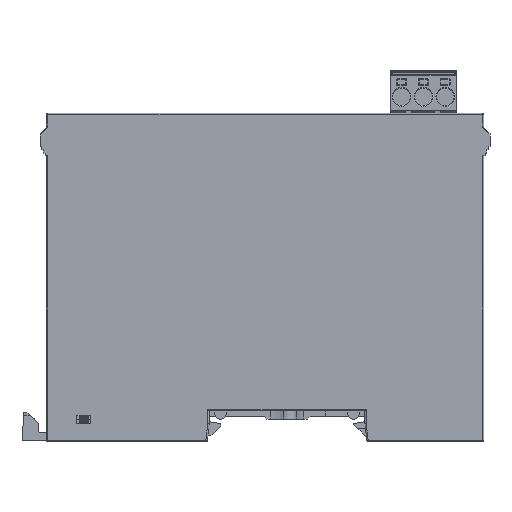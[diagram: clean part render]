
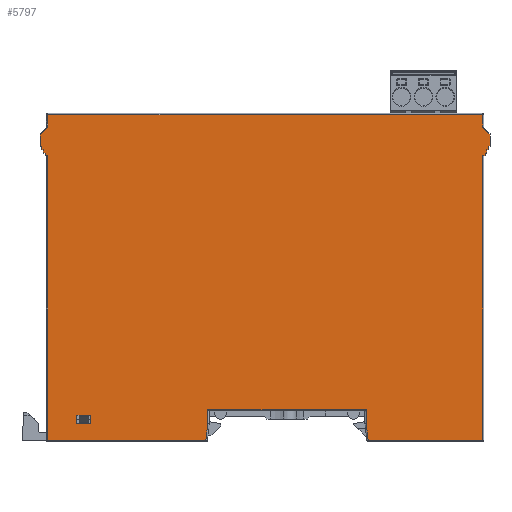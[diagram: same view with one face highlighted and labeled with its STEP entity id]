
A CAD part, left-side view. The second image highlights one B-rep face of the part: STEP entity #5797.
In plain terms, the highlighted planar face has unit normal (-1, 0, 0).
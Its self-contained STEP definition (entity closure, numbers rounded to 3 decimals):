
#199=DIRECTION('',(0.,0.,1.));
#200=VECTOR('',#199,2.);
#201=CARTESIAN_POINT('',(-12.5,39.86,4.));
#202=LINE('',#201,#200);
#203=DIRECTION('',(0.,1.,0.));
#204=VECTOR('',#203,3.2);
#205=CARTESIAN_POINT('',(-12.5,39.86,6.));
#206=LINE('',#205,#204);
#207=DIRECTION('',(0.,0.,-1.));
#208=VECTOR('',#207,2.);
#209=CARTESIAN_POINT('',(-12.5,43.06,6.));
#210=LINE('',#209,#208);
#211=DIRECTION('',(0.,-1.,0.));
#212=VECTOR('',#211,3.2);
#213=CARTESIAN_POINT('',(-12.5,43.06,4.));
#214=LINE('',#213,#212);
#215=DIRECTION('',(0.,0.,1.));
#216=VECTOR('',#215,2.821);
#217=CARTESIAN_POINT('',(-12.5,49.7,71.879));
#218=LINE('',#217,#216);
#219=DIRECTION('',(0.,-1.,0.));
#220=VECTOR('',#219,99.4);
#221=CARTESIAN_POINT('',(-12.5,49.7,74.7));
#222=LINE('',#221,#220);
#223=DIRECTION('',(0.,0.,-1.));
#224=VECTOR('',#223,2.821);
#225=CARTESIAN_POINT('',(-12.5,-49.7,74.7));
#226=LINE('',#225,#224);
#227=DIRECTION('',(0.,0.,1.));
#228=VECTOR('',#227,2.8);
#229=CARTESIAN_POINT('',(-12.5,-51.4,67.5));
#230=LINE('',#229,#228);
#231=DIRECTION('',(0.,-1.,0.));
#232=VECTOR('',#231,0.3);
#233=CARTESIAN_POINT('',(-12.5,-51.1,67.5));
#234=LINE('',#233,#232);
#235=DIRECTION('',(0.,0.,1.));
#236=VECTOR('',#235,0.8);
#237=CARTESIAN_POINT('',(-12.5,-51.1,66.7));
#238=LINE('',#237,#236);
#239=DIRECTION('',(0.,-1.,0.));
#240=VECTOR('',#239,0.4);
#241=CARTESIAN_POINT('',(-12.5,-50.7,66.7));
#242=LINE('',#241,#240);
#243=DIRECTION('',(0.,0.,1.));
#244=VECTOR('',#243,0.8);
#245=CARTESIAN_POINT('',(-12.5,-50.7,65.9));
#246=LINE('',#245,#244);
#247=DIRECTION('',(0.,-1.,0.));
#248=VECTOR('',#247,0.4);
#249=CARTESIAN_POINT('',(-12.5,-50.3,65.9));
#250=LINE('',#249,#248);
#251=DIRECTION('',(0.,0.,1.));
#252=VECTOR('',#251,0.6);
#253=CARTESIAN_POINT('',(-12.5,-50.3,65.3));
#254=LINE('',#253,#252);
#255=DIRECTION('',(0.,0.,-1.));
#256=VECTOR('',#255,65.);
#257=CARTESIAN_POINT('',(-12.5,-49.7,65.3));
#258=LINE('',#257,#256);
#259=DIRECTION('',(0.,1.,0.));
#260=VECTOR('',#259,26.135);
#261=CARTESIAN_POINT('',(-12.5,-49.7,0.3));
#262=LINE('',#261,#260);
#263=DIRECTION('',(0.,-0.124,-0.992));
#264=VECTOR('',#263,3.748);
#265=CARTESIAN_POINT('',(-12.5,-23.1,4.019));
#266=LINE('',#265,#264);
#267=DIRECTION('',(0.,0.,-1.));
#268=VECTOR('',#267,3.281);
#269=CARTESIAN_POINT('',(-12.5,-23.1,7.3));
#270=LINE('',#269,#268);
#271=DIRECTION('',(0.,-1.,0.));
#272=VECTOR('',#271,36.2);
#273=CARTESIAN_POINT('',(-12.5,13.1,7.3));
#274=LINE('',#273,#272);
#275=DIRECTION('',(0.,0.,1.));
#276=VECTOR('',#275,3.281);
#277=CARTESIAN_POINT('',(-12.5,13.1,4.019));
#278=LINE('',#277,#276);
#279=DIRECTION('',(0.,-0.124,0.992));
#280=VECTOR('',#279,3.748);
#281=CARTESIAN_POINT('',(-12.5,13.565,0.3));
#282=LINE('',#281,#280);
#283=DIRECTION('',(0.,1.,0.));
#284=VECTOR('',#283,36.135);
#285=CARTESIAN_POINT('',(-12.5,13.565,0.3));
#286=LINE('',#285,#284);
#287=DIRECTION('',(0.,0.,1.));
#288=VECTOR('',#287,65.);
#289=CARTESIAN_POINT('',(-12.5,49.7,0.3));
#290=LINE('',#289,#288);
#291=DIRECTION('',(0.,0.,-1.));
#292=VECTOR('',#291,0.6);
#293=CARTESIAN_POINT('',(-12.5,50.3,65.9));
#294=LINE('',#293,#292);
#295=DIRECTION('',(0.,-1.,0.));
#296=VECTOR('',#295,0.4);
#297=CARTESIAN_POINT('',(-12.5,50.7,65.9));
#298=LINE('',#297,#296);
#299=DIRECTION('',(0.,0.,-1.));
#300=VECTOR('',#299,0.8);
#301=CARTESIAN_POINT('',(-12.5,50.7,66.7));
#302=LINE('',#301,#300);
#303=DIRECTION('',(0.,-1.,0.));
#304=VECTOR('',#303,0.4);
#305=CARTESIAN_POINT('',(-12.5,51.1,66.7));
#306=LINE('',#305,#304);
#307=DIRECTION('',(0.,0.,-1.));
#308=VECTOR('',#307,0.8);
#309=CARTESIAN_POINT('',(-12.5,51.1,67.5));
#310=LINE('',#309,#308);
#311=DIRECTION('',(0.,-1.,0.));
#312=VECTOR('',#311,0.3);
#313=CARTESIAN_POINT('',(-12.5,51.4,67.5));
#314=LINE('',#313,#312);
#315=DIRECTION('',(0.,0.,-1.));
#316=VECTOR('',#315,2.8);
#317=CARTESIAN_POINT('',(-12.5,51.4,70.3));
#318=LINE('',#317,#316);
#1964=DIRECTION('',(0.,-1.,0.));
#1965=VECTOR('',#1964,0.6);
#1966=CARTESIAN_POINT('',(-12.5,50.3,65.3));
#1967=LINE('',#1966,#1965);
#1996=DIRECTION('',(0.,0.733,-0.68));
#1997=VECTOR('',#1996,2.32);
#1998=CARTESIAN_POINT('',(-12.5,49.7,71.879));
#1999=LINE('',#1998,#1997);
#3692=DIRECTION('',(0.,0.733,0.68));
#3693=VECTOR('',#3692,2.32);
#3694=CARTESIAN_POINT('',(-12.5,-51.4,70.3));
#3695=LINE('',#3694,#3693);
#3728=DIRECTION('',(0.,-1.,0.));
#3729=VECTOR('',#3728,0.6);
#3730=CARTESIAN_POINT('',(-12.5,-49.7,65.3));
#3731=LINE('',#3730,#3729);
#4488=CARTESIAN_POINT('',(-12.5,39.86,4.));
#4489=CARTESIAN_POINT('',(-12.5,39.86,6.));
#4490=VERTEX_POINT('',#4488);
#4491=VERTEX_POINT('',#4489);
#4492=CARTESIAN_POINT('',(-12.5,43.06,6.));
#4493=VERTEX_POINT('',#4492);
#4494=CARTESIAN_POINT('',(-12.5,43.06,4.));
#4495=VERTEX_POINT('',#4494);
#4676=CARTESIAN_POINT('',(-12.5,51.4,70.3));
#4677=CARTESIAN_POINT('',(-12.5,51.4,67.5));
#4678=VERTEX_POINT('',#4676);
#4679=VERTEX_POINT('',#4677);
#4680=CARTESIAN_POINT('',(-12.5,51.1,67.5));
#4681=VERTEX_POINT('',#4680);
#4682=CARTESIAN_POINT('',(-12.5,51.1,66.7));
#4683=VERTEX_POINT('',#4682);
#4684=CARTESIAN_POINT('',(-12.5,50.7,66.7));
#4685=VERTEX_POINT('',#4684);
#4686=CARTESIAN_POINT('',(-12.5,50.7,65.9));
#4687=VERTEX_POINT('',#4686);
#4688=CARTESIAN_POINT('',(-12.5,50.3,65.9));
#4689=VERTEX_POINT('',#4688);
#4690=CARTESIAN_POINT('',(-12.5,50.3,65.3));
#4691=VERTEX_POINT('',#4690);
#4692=CARTESIAN_POINT('',(-12.5,-50.3,65.3));
#4693=CARTESIAN_POINT('',(-12.5,-50.3,65.9));
#4694=VERTEX_POINT('',#4692);
#4695=VERTEX_POINT('',#4693);
#4696=CARTESIAN_POINT('',(-12.5,-50.7,65.9));
#4697=VERTEX_POINT('',#4696);
#4698=CARTESIAN_POINT('',(-12.5,-50.7,66.7));
#4699=VERTEX_POINT('',#4698);
#4700=CARTESIAN_POINT('',(-12.5,-51.1,66.7));
#4701=VERTEX_POINT('',#4700);
#4702=CARTESIAN_POINT('',(-12.5,-51.1,67.5));
#4703=VERTEX_POINT('',#4702);
#4704=CARTESIAN_POINT('',(-12.5,-51.4,67.5));
#4705=VERTEX_POINT('',#4704);
#4706=CARTESIAN_POINT('',(-12.5,-51.4,70.3));
#4707=VERTEX_POINT('',#4706);
#4768=CARTESIAN_POINT('',(-12.5,49.7,71.879));
#4769=CARTESIAN_POINT('',(-12.5,49.7,74.7));
#4770=VERTEX_POINT('',#4768);
#4771=VERTEX_POINT('',#4769);
#4772=CARTESIAN_POINT('',(-12.5,-49.7,74.7));
#4773=CARTESIAN_POINT('',(-12.5,-49.7,71.879));
#4774=VERTEX_POINT('',#4772);
#4775=VERTEX_POINT('',#4773);
#4796=CARTESIAN_POINT('',(-12.5,-49.7,65.3));
#4797=CARTESIAN_POINT('',(-12.5,-49.7,0.3));
#4798=VERTEX_POINT('',#4796);
#4799=VERTEX_POINT('',#4797);
#4800=CARTESIAN_POINT('',(-12.5,-23.565,0.3));
#4801=VERTEX_POINT('',#4800);
#4804=CARTESIAN_POINT('',(-12.5,-23.1,4.019));
#4805=VERTEX_POINT('',#4804);
#4810=CARTESIAN_POINT('',(-12.5,-23.1,7.3));
#4811=VERTEX_POINT('',#4810);
#4814=CARTESIAN_POINT('',(-12.5,13.1,7.3));
#4815=VERTEX_POINT('',#4814);
#4816=CARTESIAN_POINT('',(-12.5,13.1,4.019));
#4817=VERTEX_POINT('',#4816);
#4822=CARTESIAN_POINT('',(-12.5,13.565,0.3));
#4823=VERTEX_POINT('',#4822);
#4824=CARTESIAN_POINT('',(-12.5,49.7,0.3));
#4825=VERTEX_POINT('',#4824);
#4834=CARTESIAN_POINT('',(-12.5,49.7,65.3));
#4835=VERTEX_POINT('',#4834);
#5722=CARTESIAN_POINT('',(-12.5,50.,0.));
#5723=DIRECTION('',(-1.,0.,0.));
#5724=DIRECTION('',(0.,-1.,0.));
#5725=AXIS2_PLACEMENT_3D('',#5722,#5723,#5724);
#5726=PLANE('',#5725);
#5728=ORIENTED_EDGE('',*,*,#5727,.T.);
#5730=ORIENTED_EDGE('',*,*,#5729,.T.);
#5732=ORIENTED_EDGE('',*,*,#5731,.T.);
#5734=ORIENTED_EDGE('',*,*,#5733,.F.);
#5736=ORIENTED_EDGE('',*,*,#5735,.F.);
#5738=ORIENTED_EDGE('',*,*,#5737,.F.);
#5740=ORIENTED_EDGE('',*,*,#5739,.F.);
#5742=ORIENTED_EDGE('',*,*,#5741,.F.);
#5744=ORIENTED_EDGE('',*,*,#5743,.F.);
#5746=ORIENTED_EDGE('',*,*,#5745,.F.);
#5748=ORIENTED_EDGE('',*,*,#5747,.F.);
#5750=ORIENTED_EDGE('',*,*,#5749,.F.);
#5752=ORIENTED_EDGE('',*,*,#5751,.T.);
#5754=ORIENTED_EDGE('',*,*,#5753,.T.);
#5756=ORIENTED_EDGE('',*,*,#5755,.F.);
#5758=ORIENTED_EDGE('',*,*,#5757,.F.);
#5760=ORIENTED_EDGE('',*,*,#5759,.F.);
#5762=ORIENTED_EDGE('',*,*,#5761,.F.);
#5763=ORIENTED_EDGE('',*,*,#5701,.F.);
#5764=ORIENTED_EDGE('',*,*,#5713,.T.);
#5766=ORIENTED_EDGE('',*,*,#5765,.T.);
#5768=ORIENTED_EDGE('',*,*,#5767,.F.);
#5770=ORIENTED_EDGE('',*,*,#5769,.F.);
#5772=ORIENTED_EDGE('',*,*,#5771,.F.);
#5774=ORIENTED_EDGE('',*,*,#5773,.F.);
#5776=ORIENTED_EDGE('',*,*,#5775,.F.);
#5778=ORIENTED_EDGE('',*,*,#5777,.F.);
#5780=ORIENTED_EDGE('',*,*,#5779,.F.);
#5782=ORIENTED_EDGE('',*,*,#5781,.F.);
#5784=ORIENTED_EDGE('',*,*,#5783,.F.);
#5785=EDGE_LOOP('',(#5728,#5730,#5732,#5734,#5736,#5738,#5740,#5742,#5744,#5746,
#5748,#5750,#5752,#5754,#5756,#5758,#5760,#5762,#5763,#5764,#5766,#5768,#5770,
#5772,#5774,#5776,#5778,#5780,#5782,#5784));
#5786=FACE_OUTER_BOUND('',#5785,.F.);
#5788=ORIENTED_EDGE('',*,*,#5787,.T.);
#5790=ORIENTED_EDGE('',*,*,#5789,.T.);
#5792=ORIENTED_EDGE('',*,*,#5791,.T.);
#5794=ORIENTED_EDGE('',*,*,#5793,.T.);
#5795=EDGE_LOOP('',(#5788,#5790,#5792,#5794));
#5796=FACE_BOUND('',#5795,.F.);
#5797=ADVANCED_FACE('',(#5786,#5796),#5726,.T.);
#5701=EDGE_CURVE('',#4823,#4817,#282,.T.);
#5713=EDGE_CURVE('',#4823,#4825,#286,.T.);
#5727=EDGE_CURVE('',#4770,#4771,#218,.T.);
#5729=EDGE_CURVE('',#4771,#4774,#222,.T.);
#5731=EDGE_CURVE('',#4774,#4775,#226,.T.);
#5733=EDGE_CURVE('',#4707,#4775,#3695,.T.);
#5735=EDGE_CURVE('',#4705,#4707,#230,.T.);
#5737=EDGE_CURVE('',#4703,#4705,#234,.T.);
#5739=EDGE_CURVE('',#4701,#4703,#238,.T.);
#5741=EDGE_CURVE('',#4699,#4701,#242,.T.);
#5743=EDGE_CURVE('',#4697,#4699,#246,.T.);
#5745=EDGE_CURVE('',#4695,#4697,#250,.T.);
#5747=EDGE_CURVE('',#4694,#4695,#254,.T.);
#5749=EDGE_CURVE('',#4798,#4694,#3731,.T.);
#5751=EDGE_CURVE('',#4798,#4799,#258,.T.);
#5753=EDGE_CURVE('',#4799,#4801,#262,.T.);
#5755=EDGE_CURVE('',#4805,#4801,#266,.T.);
#5757=EDGE_CURVE('',#4811,#4805,#270,.T.);
#5759=EDGE_CURVE('',#4815,#4811,#274,.T.);
#5761=EDGE_CURVE('',#4817,#4815,#278,.T.);
#5765=EDGE_CURVE('',#4825,#4835,#290,.T.);
#5767=EDGE_CURVE('',#4691,#4835,#1967,.T.);
#5769=EDGE_CURVE('',#4689,#4691,#294,.T.);
#5771=EDGE_CURVE('',#4687,#4689,#298,.T.);
#5773=EDGE_CURVE('',#4685,#4687,#302,.T.);
#5775=EDGE_CURVE('',#4683,#4685,#306,.T.);
#5777=EDGE_CURVE('',#4681,#4683,#310,.T.);
#5779=EDGE_CURVE('',#4679,#4681,#314,.T.);
#5781=EDGE_CURVE('',#4678,#4679,#318,.T.);
#5783=EDGE_CURVE('',#4770,#4678,#1999,.T.);
#5787=EDGE_CURVE('',#4490,#4491,#202,.T.);
#5789=EDGE_CURVE('',#4491,#4493,#206,.T.);
#5791=EDGE_CURVE('',#4493,#4495,#210,.T.);
#5793=EDGE_CURVE('',#4495,#4490,#214,.T.);
